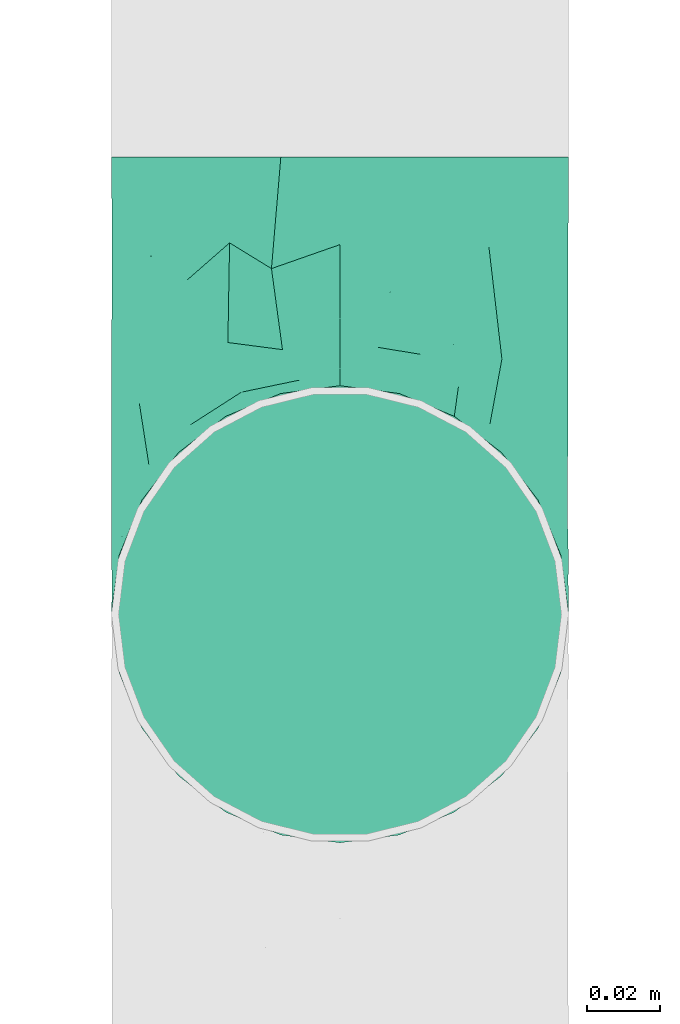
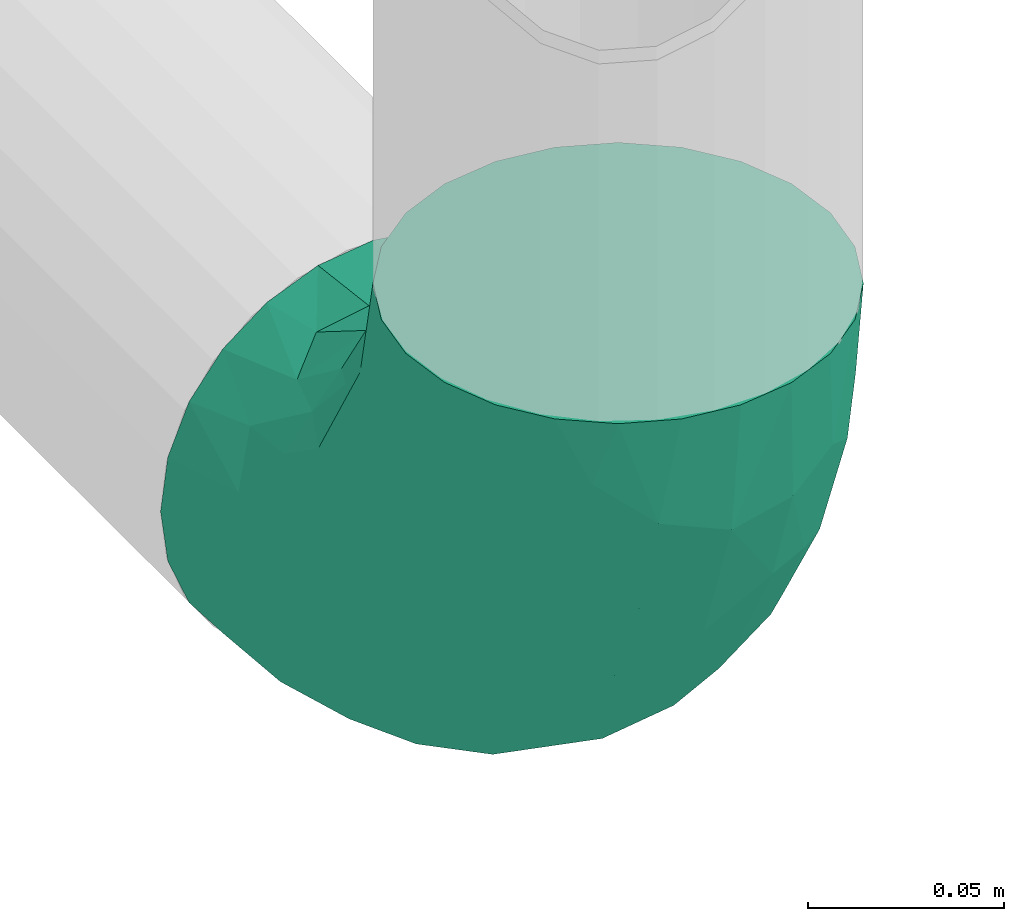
# One storey, part 35 of 36: 1 flow fitting.
"""IFC2X3 building model written with IfcOpenShell, lengths in millimetres."""

from ifc_helpers import new_model, entity, si_unit, converted_unit, derived_unit, direction, frame, origin_with_axes, place, context, subcontext, project, spatial, open_shell, surface_model, source, transform, mapped, type_object, element, save


model = new_model("IFC2X3")

# Units and contexts
model_context = context("Model", 3, precision=0.01, world=frame((0.0, 4.29681676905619e-09, 0.0)), true_north=direction((4.01073788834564e-13, 1.0)))
plan_context = context("Plan", 3, precision=0.01, world=frame((0.0, 4.29681676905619e-09, 0.0)), true_north=direction((4.01073788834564e-13, 1.0)))
body_context = subcontext(model_context, "Body", "Model", "MODEL_VIEW")
ifc_project = project(units=[converted_unit("PLANEANGLEUNIT", "DEGREE", entity("IfcPositiveLengthMeasure", 0.0174532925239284), si_unit("PLANEANGLEUNIT", "RADIAN"), dimensions=[0, 0, 0, 0, 0, 0, 0]), si_unit("AREAUNIT", "SQUARE_METRE"), si_unit("LENGTHUNIT", "METRE", prefix="MILLI"), si_unit("MASSUNIT", "GRAM", prefix="KILO"), si_unit("POWERUNIT", "WATT"), si_unit("PRESSUREUNIT", "PASCAL"), si_unit("FORCEUNIT", "NEWTON", prefix="KILO"), si_unit("ELECTRICCURRENTUNIT", "AMPERE"), si_unit("THERMODYNAMICTEMPERATUREUNIT", "DEGREE_CELSIUS"), si_unit("TIMEUNIT", "SECOND"), si_unit("VOLUMEUNIT", "CUBIC_METRE"), derived_unit("LINEARVELOCITYUNIT", [(si_unit("LENGTHUNIT", "METRE"), 1), (si_unit("TIMEUNIT", "SECOND"), -1)]), derived_unit("VOLUMETRICFLOWRATEUNIT", [(si_unit("VOLUMEUNIT", "CUBIC_METRE"), 1), (si_unit("TIMEUNIT", "SECOND"), -1)]), derived_unit("THERMALTRANSMITTANCEUNIT", [(si_unit("POWERUNIT", "WATT"), 1), (si_unit("THERMODYNAMICTEMPERATUREUNIT", "KELVIN"), -1), (si_unit("AREAUNIT", "SQUARE_METRE"), -1)])], contexts=[model_context, plan_context])

# Site, building, storey
site_placement = place(None, frame((0.0, -4.29681676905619e-09, 0.0), z_axis=(0.0, 0.0, 1.0), x_axis=(1.0, 0.0, 0.0)))
site = spatial("IfcSite", under=ifc_project, at=site_placement, CompositionType="ELEMENT")
building_placement = place(site_placement, frame((0.0, 4.29681676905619e-09, 0.0), z_axis=(0.0, 0.0, 1.0), x_axis=(1.0, 0.0, 0.0)))
building = spatial("IfcBuilding", under=site, at=building_placement, Name="mc-building", CompositionType="ELEMENT")
storey_placement = place(building_placement, frame((0.0, 0.0, 204000.0), z_axis=(0.0, 0.0, 1.0), x_axis=(1.0, 0.0, 0.0)))
storey = spatial("IfcBuildingStorey", under=building, at=storey_placement, Name="Nivå D", CompositionType="ELEMENT", Elevation=204000.0)

# Flow fitting
duct_fitting_type = type_object("IfcDuctFittingType", Name="magicirc_elbow_full_radius_001", PredefinedType="BEND")
shared_shape = source(origin_with_axes(), body_context, "Body", "SurfaceModel", [
    surface_model("IfcShellBasedSurfaceModel", [(-125.00004, 16.17619, -60.37037), (-125.00004, 0.0, -62.5), (-125.00004, 44.19417, -44.19417), (-125.00004, 31.25, -54.12659), (-125.00004, 60.37037, -16.17619), (-125.00004, 54.12659, -31.25), (-125.00004, -16.17619, -60.37037), (-125.00004, -31.25, -54.12659), (-125.00004, -44.19417, -44.19417), (-125.00004, -54.12659, -31.25), (-125.00004, -60.37037, -16.17619), (-125.00004, -62.5, 0.0), (-125.00004, 62.5, 0.0), (-125.00004, -31.25, 54.12659), (-125.00004, 60.37037, 16.17619), (-125.00004, 54.12659, 31.25), (-125.00004, 16.17619, 60.37037), (-125.00004, 31.25, 54.12659), (-125.00004, 44.19417, 44.19417), (-125.00004, -54.12659, 31.25), (-125.00004, -44.19417, 44.19417), (-125.00004, -60.37037, 16.17619), (-125.00004, -16.17619, 60.37037), (-125.00004, 0.0, 62.5), (44.19414, 125.00005, -44.19417), (60.37032, 125.00006, -16.17619), (54.12655, 125.00006, -31.25), (31.24996, 125.00005, 54.12659), (-4e-05, 125.00004, 62.5), (16.17615, 125.00005, 60.37037), (-92.01494, -48.59662, 35.11543), (-82.31105, -36.10079, 46.59002), (-83.27736, -57.79898, 0.0), (21.59339, 8.09569, 0.0), (6.68951, -6.68951, 12.50062), (-8.09568, -21.59339, 0.0), (-85.18289, -54.95352, 19.72452), (-63.86865, 108.10792, 10.69753), (-72.65267, 88.16476, 13.64847), (-58.85936, 108.47699, 26.01876), (28.68803, 50.93014, 42.73586), (15.24992, 48.30379, 51.88115), (13.3361, 22.15568, 40.76355), (-28.58036, -33.18173, 16.61251), (-55.80931, -40.00167, 31.60254), (-55.92904, -46.21073, 18.75922), (-43.64682, -43.93166, 0.0), (-11.1643, 11.1643, 51.09905), (-91.91545, -23.64007, 56.2333), (-48.30378, -15.24994, 51.88115), (-62.22463, -0.56087, 60.57833), (-86.05224, 71.09173, 22.01563), (-76.2976, 73.71529, 30.99182), (-95.48003, -8.27954, 61.43109), (-21.72168, 61.46245, 62.38786), (-46.29468, 46.29466, 60.98138), (-37.2157, 27.31199, 62.17805), (-96.34424, 24.51221, 59.0402), (-16.17623, 125.00003, 60.37037), (-23.33015, 107.80839, 58.54242), (-8.56591, 93.49121, 62.34649), (-87.52032, 9.58041, 62.39347), (-90.84333, 62.14568, 32.36992), (-104.65635, 61.64741, 22.10298), (-108.67616, 63.76169, 10.43133), (-88.81044, 72.98576, 10.36438), (-22.15568, -13.33611, 40.76355), (-97.70217, 52.10141, 41.01675), (33.18173, 28.58037, 16.61251), (43.93164, 43.64684, 0.0), (-108.13326, 37.84893, 50.9265), (-16.31427, 41.86089, 61.36861), (-31.055, 11.46575, 58.3624), (-6.38497, 33.76705, 57.43674), (8.27952, 95.48003, 61.43109), (40.00166, 55.80932, 31.60254), (47.31256, 55.33611, 14.21496), (54.12655, 125.00006, 31.25), (44.19414, 125.00005, 44.19417), (48.59659, 92.01496, 35.11543), (-51.08396, 80.06204, 49.23756), (-51.34968, 100.68877, 40.68918), (-65.88147, 69.79932, 44.27158), (-67.25756, 101.0823, 0.0), (-60.3704, 125.00002, 16.17619), (-54.12662, 125.00002, 31.25), (60.37032, 125.00006, 16.17619), (57.79896, 83.27738, 0.0), (62.49996, 125.00006, 0.0), (-66.75093, 56.08361, 51.93913), (-47.27425, 67.56376, 55.69769), (-62.50004, 125.00002, 0.0), (-80.80586, 80.80583, 0.0), (-101.08232, 67.25753, 0.0), (-27.03012, 84.68904, 59.52251), (-39.49552, 96.79788, 51.80473), (-4.68936, 4.68935, 43.22246), (2.91366, -2.91366, 27.95973), (-31.25004, 125.00003, 54.12659), (-44.19421, 125.00003, 44.19417), (-68.67971, 26.77169, 61.38152), (-61.32896, 15.31518, 62.47333), (-66.44479, 42.40789, 57.80884), (-86.06537, 42.42608, 52.63144), (-36.40732, 64.87813, 59.87196), (-50.92895, -28.66756, 42.755), (-64.5093, 88.50411, 30.85553), (-27.43122, -26.16339, 29.83955), (22.73424, 21.43214, 28.89236), (-90.73914, 40.97988, -52.27133), (-51.05946, -15.77314, -52.43613), (-54.2715, -0.77962, -59.44482), (-25.1117, -1.04585, -51.21226), (-98.94233, 7.90272, -62.29658), (-67.16145, 94.52639, -18.73917), (-96.17124, 24.53976, -59.04752), (-57.88413, 72.64104, -48.12601), (-44.50918, 76.42375, -54.27754), (-57.76284, 57.76281, -54.8772), (-107.28051, 64.03146, -11.08737), (-59.60366, -46.85881, -20.9596), (-91.17798, -55.95169, -20.37553), (-87.70531, 72.36167, -15.72738), (37.33985, 90.42124, -47.18844), (21.56938, 79.15012, -55.58604), (24.63937, 105.55618, -56.88213), (-98.81836, 51.80612, -40.89409), (-75.37658, 57.27461, -47.13743), (-29.56227, -32.61602, -19.86672), (2.63112, 29.35887, -52.12213), (-22.06402, 22.06401, -59.01679), (-105.22468, -49.75349, -36.31269), (-39.22856, 98.11974, -51.7028), (-31.25004, 125.00003, -54.12659), (-25.51305, 90.93129, -59.26694), (7.06321, 14.54728, -41.00964), (25.4953, 46.66581, -43.72165), (20.99941, 20.90785, -30.93535), (-90.42122, -37.33987, -47.18844), (-47.40466, -35.90659, -32.07933), (-105.55618, -24.6394, -56.88213), (16.17615, 125.00005, -60.37037), (7.88045, 92.08254, -61.35725), (-4e-05, 125.00004, -62.5), (-79.15011, -21.5694, -55.58604), (-92.08254, -7.88048, -61.35725), (-78.52967, -46.34869, -33.8522), (-68.20957, -28.53783, -49.07387), (46.34866, 78.52968, -33.8522), (46.85879, 59.60367, -20.9596), (35.90657, 47.40466, -32.07933), (-75.95081, 74.3101, -30.65772), (-100.92722, 60.72326, -27.00798), (-60.3704, 125.00002, -16.17619), (2.91556, -2.91556, -27.95435), (6.68999, -6.68999, -12.49729), (32.61601, 29.56228, -19.86672), (-54.06788, 91.4868, -41.70622), (-58.74825, 101.55879, -30.19257), (-54.12662, 125.00002, -31.25), (31.24996, 125.00005, -54.12659), (-16.17623, 125.00003, -60.37037), (-7.90275, 98.94232, -62.29658), (49.75346, 105.2247, -36.31269), (-44.19421, 125.00003, -44.19417), (-14.77486, 68.85351, -62.48651), (-33.79552, 36.46997, -62.46452), (-36.98164, 59.25, -60.63975), (0.7796, 54.2715, -59.44482), (55.95166, 91.178, -20.37553), (-23.35085, -23.18251, -30.2425), (-68.85351, 14.77484, -62.48651), (-46.6658, -25.49531, -43.72165), (-69.70066, 70.78469, -40.55271), (36.10076, 82.31106, 46.59002), (23.64004, 91.91546, 56.2333), (54.95349, 85.18291, 19.72452), (0.56085, 62.22463, 60.57833), (12.91753, 53.357, -54.59988), (-61.70772, 36.16981, -60.43635), (-16.60829, -10.64433, -39.25754)], [open_shell([[[0, 1, 2]], [[3, 0, 2]], [[4, 5, 2]], [[6, 2, 1]], [[4, 2, 6]], [[7, 8, 6]], [[8, 4, 6]], [[9, 10, 8]], [[11, 8, 10]], [[8, 11, 4]], [[11, 12, 4]], [[12, 13, 14]], [[15, 14, 16]], [[16, 17, 18]], [[15, 16, 18]], [[16, 14, 13]], [[19, 20, 21]], [[21, 20, 11]], [[22, 23, 13]], [[20, 13, 11]], [[13, 23, 16]], [[13, 12, 11]], [[24, 25, 26]], [[27, 28, 29]], [[20, 30, 31]], [[21, 11, 32]], [[33, 34, 35]], [[36, 19, 21]], [[32, 36, 21]], [[37, 38, 39]], [[19, 30, 20]], [[40, 41, 42]], [[43, 44, 45]], [[43, 45, 46]], [[20, 31, 13]], [[43, 46, 35]], [[47, 42, 41]], [[48, 49, 50]], [[38, 51, 52]], [[53, 23, 22]], [[54, 55, 56]], [[17, 16, 57]], [[48, 13, 31]], [[58, 59, 60]], [[23, 61, 16]], [[15, 62, 63]], [[64, 12, 14]], [[51, 65, 64]], [[47, 49, 66]], [[18, 67, 15]], [[68, 33, 69]], [[18, 17, 70]], [[71, 72, 73]], [[51, 64, 63]], [[74, 29, 28]], [[75, 68, 76]], [[28, 58, 60]], [[45, 32, 46]], [[77, 78, 79]], [[80, 81, 82]], [[37, 83, 38]], [[84, 39, 85]], [[86, 87, 88]], [[30, 36, 44]], [[62, 52, 51]], [[80, 89, 90]], [[91, 83, 37]], [[23, 53, 61]], [[38, 92, 65]], [[18, 70, 67]], [[83, 92, 38]], [[39, 81, 85]], [[65, 92, 93]], [[94, 95, 90]], [[96, 97, 42]], [[94, 54, 60]], [[13, 48, 22]], [[95, 94, 59]], [[59, 58, 98]], [[98, 99, 95]], [[76, 68, 69]], [[100, 101, 56]], [[57, 16, 61]], [[102, 57, 100]], [[89, 67, 103]], [[63, 62, 51]], [[81, 99, 85]], [[94, 90, 104]], [[94, 104, 54]], [[49, 48, 31]], [[53, 48, 50]], [[49, 105, 66]], [[49, 47, 72]], [[96, 42, 47]], [[36, 30, 19]], [[31, 30, 44]], [[100, 57, 61]], [[70, 57, 103]], [[64, 65, 93]], [[38, 65, 51]], [[12, 64, 93]], [[64, 14, 63]], [[14, 15, 63]], [[62, 15, 67]], [[67, 82, 62]], [[52, 82, 106]], [[95, 80, 90]], [[102, 89, 103]], [[100, 56, 55]], [[72, 56, 50]], [[54, 56, 71]], [[60, 74, 28]], [[48, 53, 22]], [[61, 53, 50]], [[82, 81, 106]], [[95, 99, 81]], [[34, 43, 35]], [[107, 97, 66]], [[75, 40, 108]], [[68, 108, 34]], [[105, 49, 31]], [[43, 107, 44]], [[108, 42, 97]], [[100, 61, 101]], [[102, 100, 55]], [[90, 102, 55]], [[57, 102, 103]], [[90, 89, 102]], [[67, 89, 82]], [[61, 50, 101]], [[50, 56, 101]], [[82, 52, 62]], [[38, 52, 106]], [[49, 72, 50]], [[73, 72, 47]], [[41, 73, 47]], [[72, 71, 56]], [[39, 38, 106]], [[91, 37, 84]], [[68, 34, 33]], [[43, 34, 97]], [[57, 70, 17]], [[67, 70, 103]], [[95, 59, 98]], [[60, 59, 94]], [[37, 39, 84]], [[81, 39, 106]], [[54, 104, 55]], [[81, 80, 95]], [[89, 80, 82]], [[44, 36, 45]], [[45, 36, 32]], [[87, 76, 69]], [[31, 44, 105]], [[107, 105, 44]], [[97, 107, 43]], [[105, 107, 66]], [[47, 66, 96]], [[97, 96, 66]], [[34, 108, 97]], [[75, 108, 68]], [[108, 40, 42]], [[2, 109, 3]], [[110, 111, 112]], [[1, 0, 113]], [[114, 83, 91]], [[3, 115, 0]], [[116, 117, 118]], [[93, 119, 12]], [[120, 32, 121]], [[93, 122, 119]], [[123, 124, 125]], [[126, 127, 109]], [[46, 128, 35]], [[129, 112, 130]], [[109, 2, 126]], [[121, 9, 131]], [[132, 133, 134]], [[32, 11, 10]], [[135, 136, 137]], [[138, 8, 7]], [[128, 120, 139]], [[140, 138, 7]], [[141, 142, 143]], [[121, 10, 9]], [[131, 9, 8]], [[144, 145, 111]], [[146, 138, 147]], [[7, 6, 140]], [[145, 6, 1]], [[148, 149, 150]], [[92, 122, 93]], [[46, 32, 120]], [[114, 151, 122]], [[126, 152, 151]], [[153, 114, 91]], [[128, 154, 155]], [[156, 69, 33]], [[157, 158, 159]], [[151, 114, 158]], [[160, 24, 123]], [[142, 141, 125]], [[161, 162, 134]], [[115, 3, 109]], [[162, 161, 143]], [[24, 26, 163]], [[133, 132, 164]], [[161, 134, 133]], [[141, 160, 125]], [[69, 156, 149]], [[155, 156, 33]], [[165, 166, 167]], [[130, 168, 129]], [[155, 33, 35]], [[145, 144, 140]], [[124, 123, 136]], [[26, 25, 169]], [[88, 87, 25]], [[2, 5, 126]], [[169, 148, 163]], [[170, 128, 139]], [[165, 142, 168]], [[114, 92, 83]], [[159, 164, 157]], [[167, 134, 165]], [[119, 152, 4]], [[116, 132, 117]], [[127, 116, 118]], [[169, 149, 148]], [[163, 123, 24]], [[136, 123, 148]], [[168, 142, 124]], [[162, 142, 165]], [[168, 130, 166]], [[25, 87, 169]], [[149, 87, 69]], [[144, 110, 147]], [[131, 138, 146]], [[113, 145, 1]], [[171, 166, 111]], [[171, 111, 145]], [[111, 130, 112]], [[121, 146, 120]], [[32, 10, 121]], [[114, 122, 92]], [[158, 153, 159]], [[152, 5, 4]], [[109, 127, 118]], [[113, 115, 171]], [[134, 167, 117]], [[157, 164, 132]], [[136, 135, 129]], [[112, 129, 135]], [[112, 172, 110]], [[151, 152, 122]], [[126, 5, 152]], [[115, 113, 0]], [[145, 113, 171]], [[142, 162, 143]], [[134, 162, 165]], [[136, 150, 137]], [[170, 154, 128]], [[165, 168, 166]], [[111, 166, 130]], [[151, 173, 126]], [[173, 157, 116]], [[149, 169, 87]], [[150, 149, 156]], [[150, 156, 137]], [[136, 148, 150]], [[156, 154, 137]], [[154, 135, 137]], [[139, 120, 146]], [[46, 120, 128]], [[146, 172, 139]], [[173, 116, 127]], [[132, 116, 157]], [[134, 117, 132]], [[167, 118, 117]], [[126, 173, 127]], [[157, 173, 151]], [[172, 170, 139]], [[128, 155, 35]], [[156, 155, 154]], [[152, 119, 122]], [[12, 119, 4]], [[123, 125, 160]], [[142, 125, 124]], [[169, 163, 26]], [[123, 163, 148]], [[145, 140, 6]], [[138, 140, 144]], [[138, 131, 8]], [[121, 131, 146]], [[151, 158, 157]], [[153, 158, 114]], [[147, 110, 172]], [[111, 110, 144]], [[146, 147, 172]], [[144, 147, 138]], [[161, 160, 143]], [[159, 161, 133]], [[160, 161, 159]], [[159, 133, 164]], [[160, 159, 27]], [[160, 25, 24]], [[160, 141, 143]], [[25, 160, 27]], [[86, 88, 25]], [[159, 153, 98]], [[91, 84, 85]], [[91, 85, 98]], [[58, 159, 98]], [[98, 85, 99]], [[58, 27, 159]], [[77, 27, 78]], [[27, 77, 86]], [[86, 25, 27]], [[58, 28, 27]], [[98, 153, 91]], [[174, 78, 27]], [[174, 27, 175]], [[87, 176, 76]], [[87, 86, 176]], [[79, 176, 77]], [[86, 77, 176]], [[174, 75, 79]], [[175, 27, 29]], [[174, 175, 41]], [[104, 90, 55]], [[74, 60, 177]], [[74, 175, 29]], [[177, 73, 41]], [[177, 41, 175]], [[174, 79, 78]], [[176, 79, 75]], [[177, 60, 54]], [[175, 74, 177]], [[174, 40, 75]], [[71, 73, 177]], [[54, 71, 177]], [[75, 76, 176]], [[41, 40, 174]], [[129, 168, 178]], [[179, 115, 109]], [[178, 136, 129]], [[179, 109, 118]], [[180, 112, 135]], [[135, 154, 180]], [[112, 180, 172]], [[179, 118, 167]], [[179, 166, 171]], [[166, 179, 167]], [[115, 179, 171]], [[170, 172, 180]], [[154, 170, 180]], [[168, 124, 178]], [[136, 178, 124]]])]),
])
flow_fitting_placement = place(storey_placement, frame((523018.76742, 417759.63634, 2599.99997999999), z_axis=(1.0, 0.0, 0.0), x_axis=(0.0, 0.0, -1.0)))
element("IfcFlowFitting", 1, at=flow_fitting_placement, inside=storey, type_object=duct_fitting_type, Name="magicirc_elbow_full_radius_001", context=body_context, shape_type="MappedRepresentation", body=[
    mapped(shared_shape, transform((0.0, 0.0, 0.0), scale=1.0)),
])

save(model, "model.ifc")
